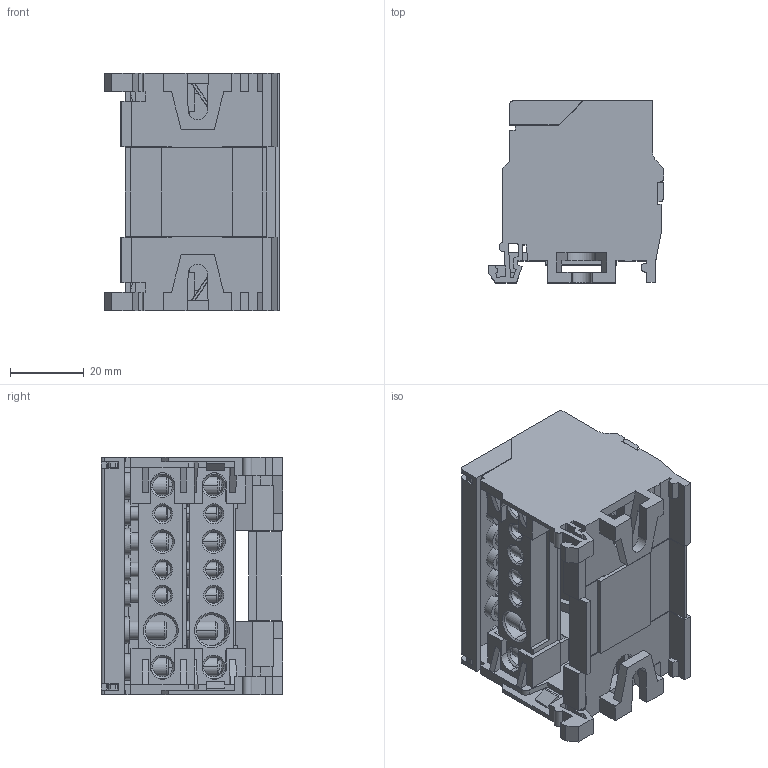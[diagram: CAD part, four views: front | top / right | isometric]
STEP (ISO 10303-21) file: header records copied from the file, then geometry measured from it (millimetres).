
FILE_DESCRIPTION (( 'STEP AP214' ), '1' );
FILE_NAME ('BDB207.STEP', '2018-02-22T14:35:32', ( '' ), ( '' ), 'SwSTEP 2.0', 'SolidWorks 2017', '' );
FILE_SCHEMA (( 'AUTOMOTIVE_DESIGN' ));
Length unit declared in the file: millimetre
Products named in the file (1): BDB207
Bounding box: 47.8 x 49.5 x 64.5 mm (x, y, z)
Volume: 39868.6 mm3; surface area: 45921.5 mm2
Topology: 20 solids, 20 shells, 1205 faces, 3299 edges, 2148 vertices
Faces by surface type: plane 875, cylinder 179, cone 112, bspline 39
Entity records: 54239 total; most frequent: CARTESIAN_POINT 9968, ORIENTED_EDGE 6598, DIRECTION 6019, EDGE_CURVE 3299, LINE 2685, VECTOR 2685, VERTEX_POINT 2148, AXIS2_PLACEMENT_3D 1667
